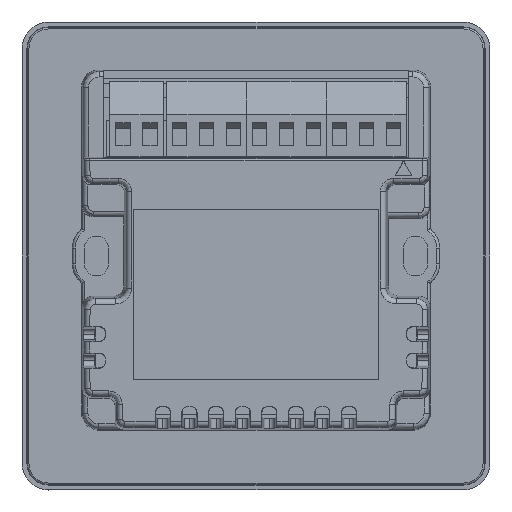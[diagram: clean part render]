
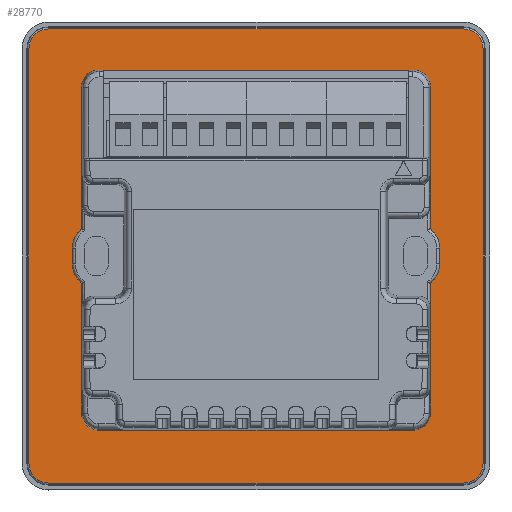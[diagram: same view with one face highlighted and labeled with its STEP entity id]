
A CAD part, front view. The second image highlights one B-rep face of the part: STEP entity #28770.
In plain terms, the highlighted planar face has unit normal (0, -1, 0) as drawn and (0, 0, -1) by its records, which use the part's own axes.
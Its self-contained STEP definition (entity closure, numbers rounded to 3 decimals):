
#15318=DIRECTION('',(1.,0.,0.));
#15319=VECTOR('',#15318,78.);
#15320=CARTESIAN_POINT('',(-39.,42.692,0.5));
#15321=LINE('',#15320,#15319);
#15332=CARTESIAN_POINT('',(39.,39.,0.5));
#15333=DIRECTION('',(0.,0.,1.));
#15334=DIRECTION('',(1.,0.,0.));
#15335=AXIS2_PLACEMENT_3D('',#15332,#15333,#15334);
#15340=CARTESIAN_POINT('',(-39.,39.,0.5));
#15341=DIRECTION('',(0.,0.,1.));
#15342=DIRECTION('',(0.,1.,0.));
#15343=AXIS2_PLACEMENT_3D('',#15340,#15341,#15342);
#15348=CARTESIAN_POINT('',(-39.,-39.,0.5));
#15349=DIRECTION('',(0.,0.,1.));
#15350=DIRECTION('',(-1.,0.,0.));
#15351=AXIS2_PLACEMENT_3D('',#15348,#15349,#15350);
#15356=CARTESIAN_POINT('',(39.,-39.,0.5));
#15357=DIRECTION('',(0.,0.,1.));
#15358=DIRECTION('',(0.,-1.,0.));
#15359=AXIS2_PLACEMENT_3D('',#15356,#15357,#15358);
#15364=DIRECTION('',(0.,1.,0.));
#15365=VECTOR('',#15364,59.508);
#15366=CARTESIAN_POINT('',(-34.933,-29.754,0.5));
#15367=LINE('',#15366,#15365);
#15371=CARTESIAN_POINT('',(-1.5,30.,0.5));
#15372=DIRECTION('',(0.,0.,-1.));
#15373=DIRECTION('',(-0.796,0.605,0.));
#15374=AXIS2_PLACEMENT_3D('',#15371,#15372,#15373);
#15379=DIRECTION('',(1.,0.,0.));
#15380=VECTOR('',#15379,3.);
#15381=CARTESIAN_POINT('',(-1.5,34.55,0.5));
#15382=LINE('',#15381,#15380);
#15386=CARTESIAN_POINT('',(1.5,30.,0.5));
#15387=DIRECTION('',(0.,0.,-1.));
#15388=DIRECTION('',(0.,1.,0.));
#15389=AXIS2_PLACEMENT_3D('',#15386,#15387,#15388);
#15394=CARTESIAN_POINT('',(1.5,-30.,0.5));
#15395=DIRECTION('',(0.,0.,-1.));
#15396=DIRECTION('',(0.796,-0.605,0.));
#15397=AXIS2_PLACEMENT_3D('',#15394,#15395,#15396);
#15402=DIRECTION('',(-1.,0.,0.));
#15403=VECTOR('',#15402,3.);
#15404=CARTESIAN_POINT('',(1.5,-34.55,0.5));
#15405=LINE('',#15404,#15403);
#15409=CARTESIAN_POINT('',(-1.5,-30.,0.5));
#15410=DIRECTION('',(0.,0.,-1.));
#15411=DIRECTION('',(0.,-1.,0.));
#15412=AXIS2_PLACEMENT_3D('',#15409,#15410,#15411);
#15441=DIRECTION('',(0.,-1.,0.));
#15442=VECTOR('',#15441,78.);
#15443=CARTESIAN_POINT('',(42.692,39.,0.5));
#15444=LINE('',#15443,#15442);
#15479=DIRECTION('',(-1.,0.,0.));
#15480=VECTOR('',#15479,78.);
#15481=CARTESIAN_POINT('',(39.,-42.692,0.5));
#15482=LINE('',#15481,#15480);
#15517=DIRECTION('',(0.,1.,0.));
#15518=VECTOR('',#15517,78.);
#15519=CARTESIAN_POINT('',(-42.692,-39.,0.5));
#15520=LINE('',#15519,#15518);
#15808=DIRECTION('',(-1.,0.,0.));
#15809=VECTOR('',#15808,24.599);
#15810=CARTESIAN_POINT('',(29.721,32.754,
0.5));
#15811=LINE('',#15810,#15809);
#15912=DIRECTION('',(-1.,0.,0.));
#15913=VECTOR('',#15912,26.812);
#15914=CARTESIAN_POINT('',(-5.122,32.754,
0.5));
#15915=LINE('',#15914,#15913);
#19296=CARTESIAN_POINT('',(-34.933,-29.754,0.5));
#19297=CARTESIAN_POINT('',(-34.933,-30.254,0.5));
#19298=CARTESIAN_POINT('',(-34.716,-31.037,0.5));
#19299=CARTESIAN_POINT('',(-34.099,-31.919,0.5));
#19300=CARTESIAN_POINT('',(-33.217,-32.537,0.5));
#19301=CARTESIAN_POINT('',(-32.434,-32.754,0.5));
#19302=CARTESIAN_POINT('',(-31.934,-32.754,0.5));
#19397=DIRECTION('',(1.,0.,0.));
#19398=VECTOR('',#19397,24.599);
#19399=CARTESIAN_POINT('',(5.122,-32.754,0.5));
#19400=LINE('',#19399,#19398);
#19418=DIRECTION('',(1.,0.,0.));
#19419=VECTOR('',#19418,26.812);
#19420=CARTESIAN_POINT('',(-31.934,-32.754,0.5));
#19421=LINE('',#19420,#19419);
#19482=CARTESIAN_POINT('',(29.721,-32.754,0.5));
#19483=CARTESIAN_POINT('',(30.221,-32.754,0.5));
#19484=CARTESIAN_POINT('',(31.004,-32.537,0.5));
#19485=CARTESIAN_POINT('',(31.886,-31.919,0.5));
#19486=CARTESIAN_POINT('',(32.504,-31.037,0.5));
#19487=CARTESIAN_POINT('',(32.721,-30.254,0.5));
#19488=CARTESIAN_POINT('',(32.721,-29.754,0.5));
#19818=DIRECTION('',(0.,1.,0.));
#19819=VECTOR('',#19818,59.508);
#19820=CARTESIAN_POINT('',(32.721,-29.754,
0.5));
#19821=LINE('',#19820,#19819);
#19875=CARTESIAN_POINT('',(32.721,29.754,0.5));
#19876=CARTESIAN_POINT('',(32.721,30.254,0.5));
#19877=CARTESIAN_POINT('',(32.504,31.037,0.5));
#19878=CARTESIAN_POINT('',(31.886,31.919,0.5));
#19879=CARTESIAN_POINT('',(31.004,32.537,0.5));
#19880=CARTESIAN_POINT('',(30.221,32.754,0.5));
#19881=CARTESIAN_POINT('',(29.721,32.754,0.5));
#21521=CARTESIAN_POINT('',(-5.122,-32.754,
0.5));
#21589=CARTESIAN_POINT('',(5.122,-32.754,0.5));
#23405=CARTESIAN_POINT('',(-31.934,32.754,0.5));
#23406=CARTESIAN_POINT('',(-32.434,32.754,0.5));
#23407=CARTESIAN_POINT('',(-33.217,32.537,0.5));
#23408=CARTESIAN_POINT('',(-34.099,31.919,0.5));
#23409=CARTESIAN_POINT('',(-34.716,31.037,0.5));
#23410=CARTESIAN_POINT('',(-34.933,30.254,0.5));
#23411=CARTESIAN_POINT('',(-34.933,29.754,0.5));
#26206=VERTEX_POINT('',#21589);
#26207=CARTESIAN_POINT('',(29.721,-32.754,
0.5));
#26208=VERTEX_POINT('',#26207);
#26210=VERTEX_POINT('',#21521);
#26213=CARTESIAN_POINT('',(32.721,-29.754,
0.5));
#26214=CARTESIAN_POINT('',(32.721,29.754,
0.5));
#26215=VERTEX_POINT('',#26213);
#26216=VERTEX_POINT('',#26214);
#26285=CARTESIAN_POINT('',(42.692,39.,0.5));
#26286=CARTESIAN_POINT('',(39.,42.692,0.5));
#26287=VERTEX_POINT('',#26285);
#26288=VERTEX_POINT('',#26286);
#26289=CARTESIAN_POINT('',(-39.,42.692,0.5));
#26290=VERTEX_POINT('',#26289);
#26291=CARTESIAN_POINT('',(-42.692,39.,0.5));
#26292=VERTEX_POINT('',#26291);
#26293=CARTESIAN_POINT('',(-42.692,-39.,0.5));
#26294=VERTEX_POINT('',#26293);
#26295=CARTESIAN_POINT('',(-39.,-42.692,0.5));
#26296=VERTEX_POINT('',#26295);
#26297=CARTESIAN_POINT('',(39.,-42.692,0.5));
#26298=VERTEX_POINT('',#26297);
#26299=CARTESIAN_POINT('',(42.692,-39.,0.5));
#26300=VERTEX_POINT('',#26299);
#26301=CARTESIAN_POINT('',(1.5,34.55,0.5));
#26302=CARTESIAN_POINT('',(5.122,32.754,0.5));
#26303=VERTEX_POINT('',#26301);
#26304=VERTEX_POINT('',#26302);
#26305=CARTESIAN_POINT('',(29.721,32.754,
0.5));
#26306=VERTEX_POINT('',#26305);
#26307=CARTESIAN_POINT('',(1.5,-34.55,0.5));
#26308=VERTEX_POINT('',#26307);
#26309=CARTESIAN_POINT('',(-1.5,-34.55,0.5));
#26310=VERTEX_POINT('',#26309);
#26311=CARTESIAN_POINT('',(-5.122,32.754,0.5));
#26312=CARTESIAN_POINT('',(-1.5,34.55,0.5));
#26313=VERTEX_POINT('',#26311);
#26314=VERTEX_POINT('',#26312);
#27648=CARTESIAN_POINT('',(-31.934,-32.754,0.5));
#27649=VERTEX_POINT('',#27648);
#27650=CARTESIAN_POINT('',(-34.933,-29.754,0.5));
#27651=CARTESIAN_POINT('',(-34.933,29.754,0.5));
#27652=VERTEX_POINT('',#27650);
#27653=VERTEX_POINT('',#27651);
#27654=CARTESIAN_POINT('',(-31.934,32.754,0.5));
#27655=VERTEX_POINT('',#27654);
#28714=CARTESIAN_POINT('',(0.,0.,0.5));
#28715=DIRECTION('',(0.,0.,1.));
#28716=DIRECTION('',(1.,0.,0.));
#28717=AXIS2_PLACEMENT_3D('',#28714,#28715,#28716);
#28718=PLANE('',#28717);
#28720=ORIENTED_EDGE('',*,*,#28719,.T.);
#28721=ORIENTED_EDGE('',*,*,#28704,.F.);
#28723=ORIENTED_EDGE('',*,*,#28722,.T.);
#28725=ORIENTED_EDGE('',*,*,#28724,.F.);
#28727=ORIENTED_EDGE('',*,*,#28726,.T.);
#28729=ORIENTED_EDGE('',*,*,#28728,.F.);
#28731=ORIENTED_EDGE('',*,*,#28730,.T.);
#28733=ORIENTED_EDGE('',*,*,#28732,.F.);
#28734=EDGE_LOOP('',(#28720,#28721,#28723,#28725,#28727,#28729,#28731,#28733));
#28735=FACE_OUTER_BOUND('',#28734,.F.);
#28737=ORIENTED_EDGE('',*,*,#28736,.T.);
#28739=ORIENTED_EDGE('',*,*,#28738,.F.);
#28741=ORIENTED_EDGE('',*,*,#28740,.F.);
#28743=ORIENTED_EDGE('',*,*,#28742,.T.);
#28745=ORIENTED_EDGE('',*,*,#28744,.T.);
#28747=ORIENTED_EDGE('',*,*,#28746,.T.);
#28749=ORIENTED_EDGE('',*,*,#28748,.F.);
#28751=ORIENTED_EDGE('',*,*,#28750,.F.);
#28753=ORIENTED_EDGE('',*,*,#28752,.F.);
#28755=ORIENTED_EDGE('',*,*,#28754,.F.);
#28757=ORIENTED_EDGE('',*,*,#28756,.F.);
#28759=ORIENTED_EDGE('',*,*,#28758,.T.);
#28761=ORIENTED_EDGE('',*,*,#28760,.T.);
#28763=ORIENTED_EDGE('',*,*,#28762,.T.);
#28765=ORIENTED_EDGE('',*,*,#28764,.F.);
#28767=ORIENTED_EDGE('',*,*,#28766,.F.);
#28768=EDGE_LOOP('',(#28737,#28739,#28741,#28743,#28745,#28747,#28749,#28751,
#28753,#28755,#28757,#28759,#28761,#28763,#28765,#28767));
#28769=FACE_BOUND('',#28768,.F.);
#15336=CIRCLE('',#15335,3.692);
#15344=CIRCLE('',#15343,3.692);
#15352=CIRCLE('',#15351,3.692);
#15360=CIRCLE('',#15359,3.692);
#15375=CIRCLE('',#15374,4.55);
#15390=CIRCLE('',#15389,4.55);
#15398=CIRCLE('',#15397,4.55);
#15413=CIRCLE('',#15412,4.55);
#19303=B_SPLINE_CURVE_WITH_KNOTS('',3,(#19296,#19297,#19298,#19299,#19300,
#19301,#19302),.UNSPECIFIED.,.F.,.F.,(4,1,1,1,4),(0.,0.25,0.5,0.75,
1.),.UNSPECIFIED.);
#19489=B_SPLINE_CURVE_WITH_KNOTS('',3,(#19482,#19483,#19484,#19485,#19486,
#19487,#19488),.UNSPECIFIED.,.F.,.F.,(4,1,1,1,4),(0.,0.25,0.5,0.75,
1.),.UNSPECIFIED.);
#19882=B_SPLINE_CURVE_WITH_KNOTS('',3,(#19875,#19876,#19877,#19878,#19879,
#19880,#19881),.UNSPECIFIED.,.F.,.F.,(4,1,1,1,4),(0.,0.25,0.5,0.75,
1.),.UNSPECIFIED.);
#23412=B_SPLINE_CURVE_WITH_KNOTS('',3,(#23405,#23406,#23407,#23408,#23409,
#23410,#23411),.UNSPECIFIED.,.F.,.F.,(4,1,1,1,4),(0.,0.25,0.5,0.75,
1.),.UNSPECIFIED.);
#28704=EDGE_CURVE('',#26290,#26288,#15321,.T.);
#28719=EDGE_CURVE('',#26287,#26288,#15336,.T.);
#28722=EDGE_CURVE('',#26290,#26292,#15344,.T.);
#28724=EDGE_CURVE('',#26294,#26292,#15520,.T.);
#28726=EDGE_CURVE('',#26294,#26296,#15352,.T.);
#28728=EDGE_CURVE('',#26298,#26296,#15482,.T.);
#28730=EDGE_CURVE('',#26298,#26300,#15360,.T.);
#28732=EDGE_CURVE('',#26287,#26300,#15444,.T.);
#28736=EDGE_CURVE('',#27652,#27653,#15367,.T.);
#28738=EDGE_CURVE('',#27655,#27653,#23412,.T.);
#28740=EDGE_CURVE('',#26313,#27655,#15915,.T.);
#28742=EDGE_CURVE('',#26313,#26314,#15375,.T.);
#28744=EDGE_CURVE('',#26314,#26303,#15382,.T.);
#28746=EDGE_CURVE('',#26303,#26304,#15390,.T.);
#28748=EDGE_CURVE('',#26306,#26304,#15811,.T.);
#28750=EDGE_CURVE('',#26216,#26306,#19882,.T.);
#28752=EDGE_CURVE('',#26215,#26216,#19821,.T.);
#28754=EDGE_CURVE('',#26208,#26215,#19489,.T.);
#28756=EDGE_CURVE('',#26206,#26208,#19400,.T.);
#28758=EDGE_CURVE('',#26206,#26308,#15398,.T.);
#28760=EDGE_CURVE('',#26308,#26310,#15405,.T.);
#28762=EDGE_CURVE('',#26310,#26210,#15413,.T.);
#28764=EDGE_CURVE('',#27649,#26210,#19421,.T.);
#28766=EDGE_CURVE('',#27652,#27649,#19303,.T.);
#28770=ADVANCED_FACE('',(#28735,#28769),#28718,.F.);
